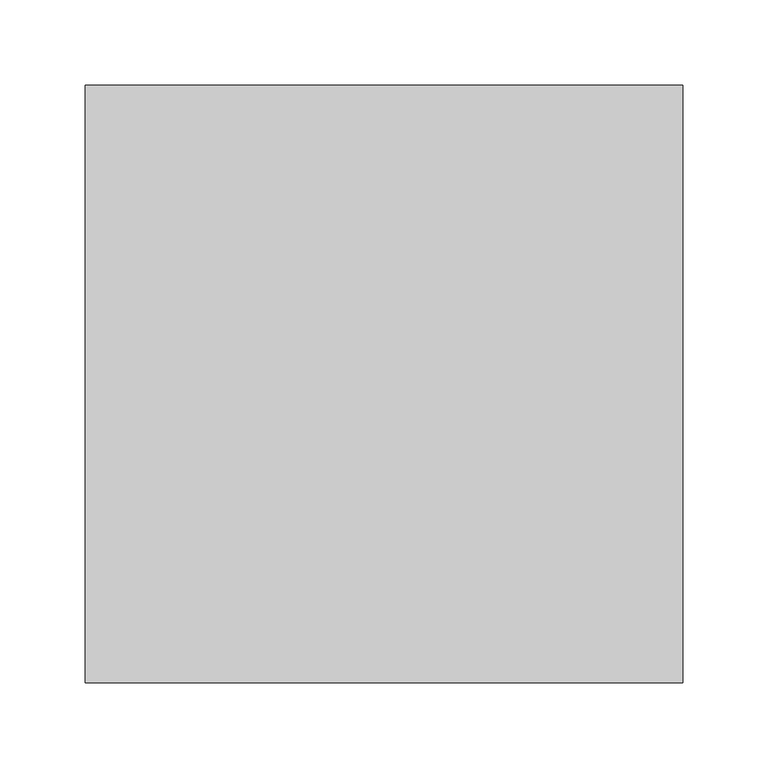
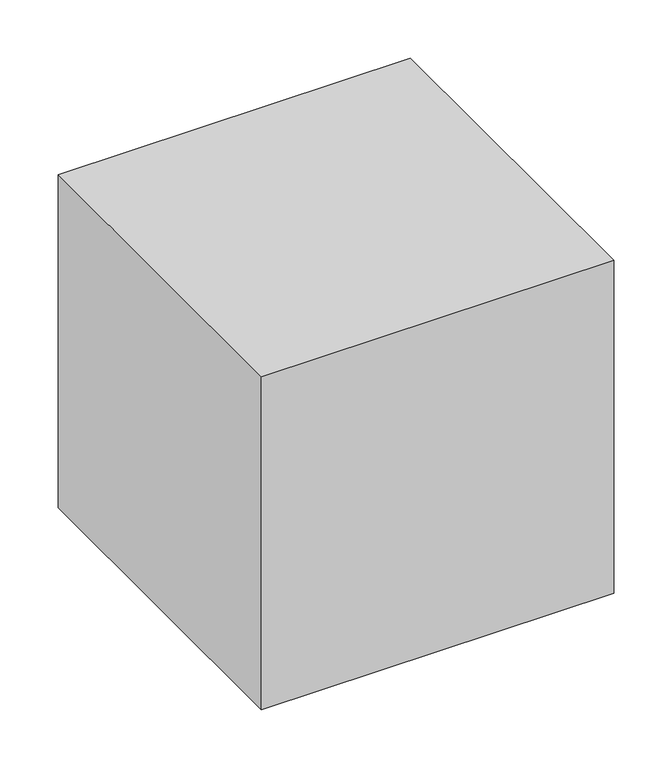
"""IFC4 building model written with IfcOpenShell, lengths in millimetres: proxy geometry, 制気口ボックス : 制気口ボックス."""

from ifc_helpers import new_model, si_unit, frame, origin, place, context, project, spatial, polyline, outline, extrude, source, transform, mapped, element, save


def mechanical_equipment_d0c6578f(model_context):
    return source(origin(), model_context, "Body", "SweptSolid", [
        extrude(outline(polyline([(175.0, -175.0), (-175.0, -175.0), (-175.0, 175.0), (175.0, 175.0), (175.0, -175.0)])), frame((0.0, 0.0, -175.0), z_axis=(0.0, 0.0, 1.0), x_axis=(1.0, 0.0, 0.0)), (0.0, 0.0, 1.0), 350.0),
    ])


if __name__ == "__main__":
    model = new_model("IFC4")
    model_context = context("Model", 3, world=origin())
    ifc_project = project(units=[si_unit("LENGTHUNIT", "METRE", prefix="MILLI")], contexts=[model_context])
    site = spatial("IfcSite", under=ifc_project)
    building = spatial("IfcBuilding", under=site)
    placement = place(None, origin())
    mechanical_equipment_shape = mechanical_equipment_d0c6578f(model_context)
    element("IfcBuildingElementProxy", 1, Name="制気口ボックス : 制気口ボックス", ObjectType="制気口ボックス : 制気口ボックス", at=placement, inside=building, context=model_context, shape_type="MappedRepresentation", body=[
        mapped(mechanical_equipment_shape, transform((0.0, 0.0, 0.0), x_axis=(1.0, 0.0, 0.0), y_axis=(0.0, 1.0, 0.0), z_axis=(0.0, 0.0, 1.0))),
    ])
    save(model, "model.ifc")
